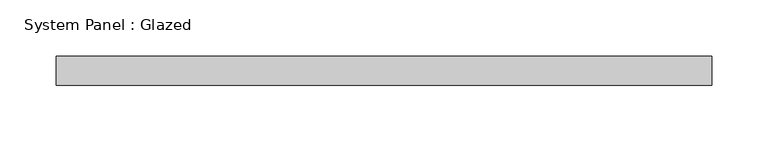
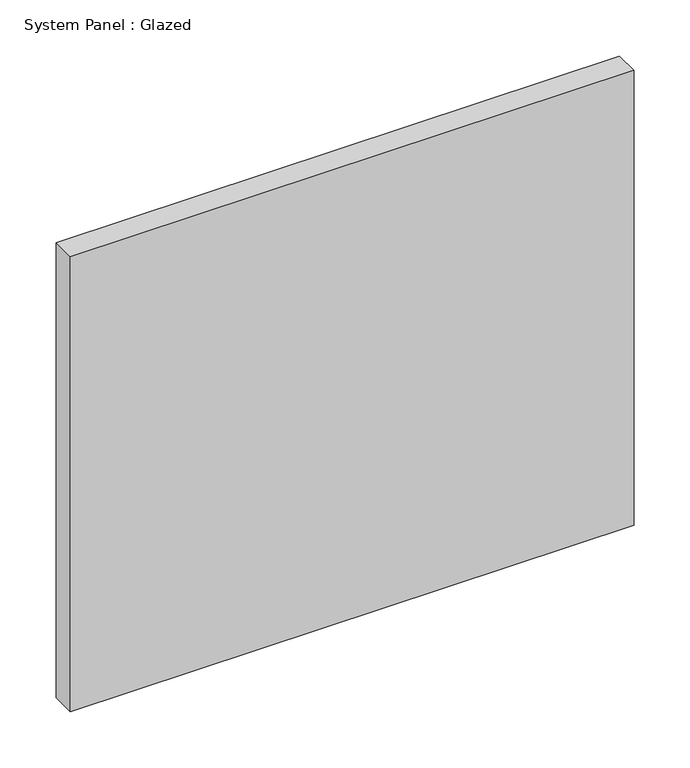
"""IFC4 building model written with IfcOpenShell, lengths in millimetres: plate geometry, System Panel : Glazed."""

from ifc_helpers import new_model, si_unit, origin, origin_with_axes, place, context, project, spatial, polyline, outline, extrude, source, transform, mapped, element, save


def system_panel_glazed_9a2ceec3(model_context):
    return source(origin(), model_context, "Body", "SweptSolid", [
        extrude(outline(polyline([(290.2639021, -12.7), (-290.2639021, -12.7), (-290.2639021, 12.7), (290.2639021, 12.7), (290.2639021, -12.7)])), origin_with_axes(), (0.0, 0.0, 1.0), 495.3),
    ])


if __name__ == "__main__":
    model = new_model("IFC4")
    model_context = context("Model", 3, world=origin())
    ifc_project = project(units=[si_unit("LENGTHUNIT", "METRE", prefix="MILLI")], contexts=[model_context])
    site = spatial("IfcSite", under=ifc_project)
    building = spatial("IfcBuilding", under=site)
    placement = place(None, origin())
    system_panel_glazed_shape = system_panel_glazed_9a2ceec3(model_context)
    element("IfcPlate", 1, ObjectType="System Panel : Glazed", at=placement, inside=building, context=model_context, shape_type="MappedRepresentation", body=[
        mapped(system_panel_glazed_shape, transform((0.0, 0.0, 0.0), x_axis=(1.0, 0.0, 0.0), y_axis=(0.0, 1.0, 0.0), z_axis=(0.0, 0.0, 1.0))),
    ])
    save(model, "model.ifc")
